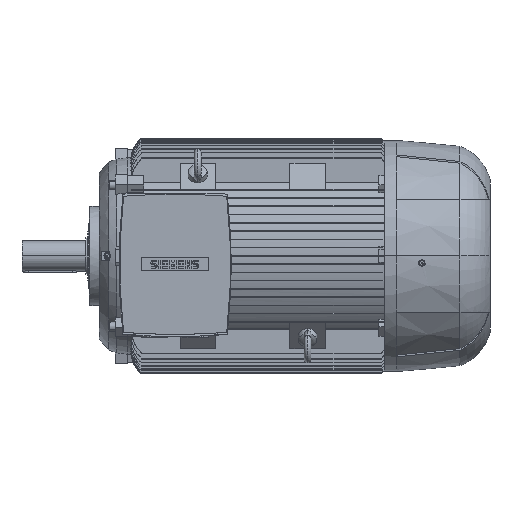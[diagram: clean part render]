
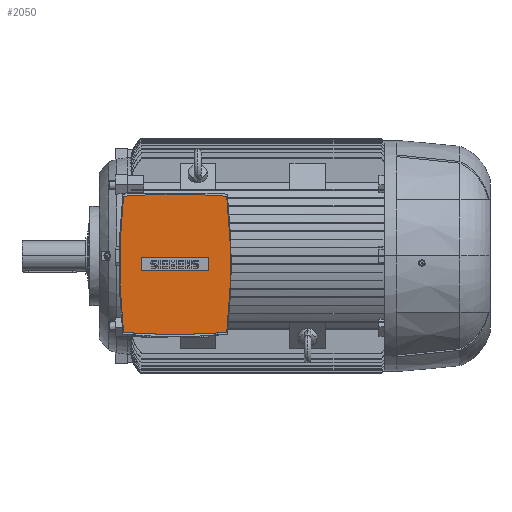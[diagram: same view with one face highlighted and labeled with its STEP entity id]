
A CAD part, top view. The second image highlights one B-rep face of the part: STEP entity #2050.
In plain terms, the highlighted planar face has unit normal (0, 0, 1).
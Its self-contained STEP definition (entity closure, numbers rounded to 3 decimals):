
#2050=ADVANCED_FACE('',(#5524,#5525),#5526,.T.);
#5524=FACE_BOUND('',#10465,.T.);
#5525=FACE_OUTER_BOUND('',#10466,.T.);
#5526=PLANE('',#10467);
#10465=EDGE_LOOP('',(#16734,#16735,#16736,#16737));
#10466=EDGE_LOOP('',(#16738,#16739,#16740,#16741,#16742,#16743));
#10467=AXIS2_PLACEMENT_3D('',#16744,#16745,#16746);
#16734=ORIENTED_EDGE('',*,*,#31301,.T.);
#16735=ORIENTED_EDGE('',*,*,#31298,.T.);
#16736=ORIENTED_EDGE('',*,*,#31295,.T.);
#16737=ORIENTED_EDGE('',*,*,#31292,.T.);
#16738=ORIENTED_EDGE('',*,*,#31381,.T.);
#16739=ORIENTED_EDGE('',*,*,#31382,.T.);
#16740=ORIENTED_EDGE('',*,*,#30846,.T.);
#16741=ORIENTED_EDGE('',*,*,#31383,.T.);
#16742=ORIENTED_EDGE('',*,*,#30839,.T.);
#16743=ORIENTED_EDGE('',*,*,#31384,.T.);
#16744=CARTESIAN_POINT('',(128.0,-23.0,515.0));
#16745=DIRECTION('',(0.0,0.0,1.0));
#16746=DIRECTION('',(0.0,-1.0,0.0));
#30839=EDGE_CURVE('',#37428,#37425,#37429,.T.);
#30846=EDGE_CURVE('',#37435,#37439,#37441,.T.);
#31292=EDGE_CURVE('',#38118,#38116,#38119,.T.);
#31295=EDGE_CURVE('',#38122,#38118,#38123,.T.);
#31298=EDGE_CURVE('',#38126,#38122,#38127,.T.);
#31301=EDGE_CURVE('',#38116,#38126,#38130,.T.);
#31381=EDGE_CURVE('',#38234,#38235,#38236,.T.);
#31382=EDGE_CURVE('',#38235,#37435,#38237,.T.);
#31383=EDGE_CURVE('',#37439,#37428,#38238,.T.);
#31384=EDGE_CURVE('',#37425,#38234,#38239,.T.);
#37425=VERTEX_POINT('',#49621);
#37428=VERTEX_POINT('',#49625);
#37429=CIRCLE('',#49626,1847.82);
#37435=VERTEX_POINT('',#49633);
#37439=VERTEX_POINT('',#49638);
#37441=CIRCLE('',#49641,1847.82);
#38116=VERTEX_POINT('',#50663);
#38118=VERTEX_POINT('',#50666);
#38119=LINE('',#50667,#50668);
#38122=VERTEX_POINT('',#50672);
#38123=LINE('',#50673,#50674);
#38126=VERTEX_POINT('',#50678);
#38127=LINE('',#50679,#50680);
#38130=LINE('',#50684,#50685);
#38234=VERTEX_POINT('',#50833);
#38235=VERTEX_POINT('',#50834);
#38236=CIRCLE('',#50835,1645.6);
#38237=CIRCLE('',#50836,1847.82);
#38238=CIRCLE('',#50837,1645.6);
#38239=CIRCLE('',#50838,1847.82);
#49621=CARTESIAN_POINT('',(128.0,163.5,515.0));
#49625=CARTESIAN_POINT('',(265.474,158.379,515.0));
#49626=AXIS2_PLACEMENT_3D('',#72312,#72313,#72314);
#49633=CARTESIAN_POINT('',(128.0,-209.5,515.0));
#49638=CARTESIAN_POINT('',(265.474,-204.379,515.0));
#49641=AXIS2_PLACEMENT_3D('',#72324,#72325,#72326);
#50663=CARTESIAN_POINT('',(218.0,-40.5,515.0));
#50666=CARTESIAN_POINT('',(218.0,-5.5,515.0));
#50667=CARTESIAN_POINT('',(218.0,-23.0,515.0));
#50668=VECTOR('',#72775,1.0);
#50672=CARTESIAN_POINT('',(38.0,-5.5,515.0));
#50673=CARTESIAN_POINT('',(128.0,-5.5,515.0));
#50674=VECTOR('',#72777,1.0);
#50678=CARTESIAN_POINT('',(38.0,-40.5,515.0));
#50679=CARTESIAN_POINT('',(38.0,-23.0,515.0));
#50680=VECTOR('',#72779,1.0);
#50684=CARTESIAN_POINT('',(128.0,-40.5,515.0));
#50685=VECTOR('',#72781,1.0);
#50833=CARTESIAN_POINT('',(-9.474,158.379,515.0));
#50834=CARTESIAN_POINT('',(-9.474,-204.379,515.0));
#50835=AXIS2_PLACEMENT_3D('',#72847,#72848,#72849);
#50836=AXIS2_PLACEMENT_3D('',#72850,#72851,#72852);
#50837=AXIS2_PLACEMENT_3D('',#72853,#72854,#72855);
#50838=AXIS2_PLACEMENT_3D('',#72856,#72857,#72858);
#72312=CARTESIAN_POINT('',(128.0,-1684.32,515.0));
#72313=DIRECTION('',(0.0,-0.0,1.0));
#72314=DIRECTION('',(0.0,1.0,0.0));
#72324=CARTESIAN_POINT('',(128.0,1638.32,515.0));
#72325=DIRECTION('',(0.0,-0.0,1.0));
#72326=DIRECTION('',(0.0,1.0,0.0));
#72775=DIRECTION('',(0.0,-1.0,0.0));
#72777=DIRECTION('',(1.0,0.0,-0.0));
#72779=DIRECTION('',(0.0,1.0,0.0));
#72781=DIRECTION('',(-1.0,0.0,0.0));
#72847=CARTESIAN_POINT('',(1626.1,-23.0,515.0));
#72848=DIRECTION('',(0.0,-0.0,1.0));
#72849=DIRECTION('',(0.0,1.0,0.0));
#72850=CARTESIAN_POINT('',(128.0,1638.32,515.0));
#72851=DIRECTION('',(0.0,-0.0,1.0));
#72852=DIRECTION('',(0.0,1.0,0.0));
#72853=CARTESIAN_POINT('',(-1370.1,-23.0,515.0));
#72854=DIRECTION('',(0.0,-0.0,1.0));
#72855=DIRECTION('',(0.0,1.0,0.0));
#72856=CARTESIAN_POINT('',(128.0,-1684.32,515.0));
#72857=DIRECTION('',(0.0,-0.0,1.0));
#72858=DIRECTION('',(0.0,1.0,0.0));
